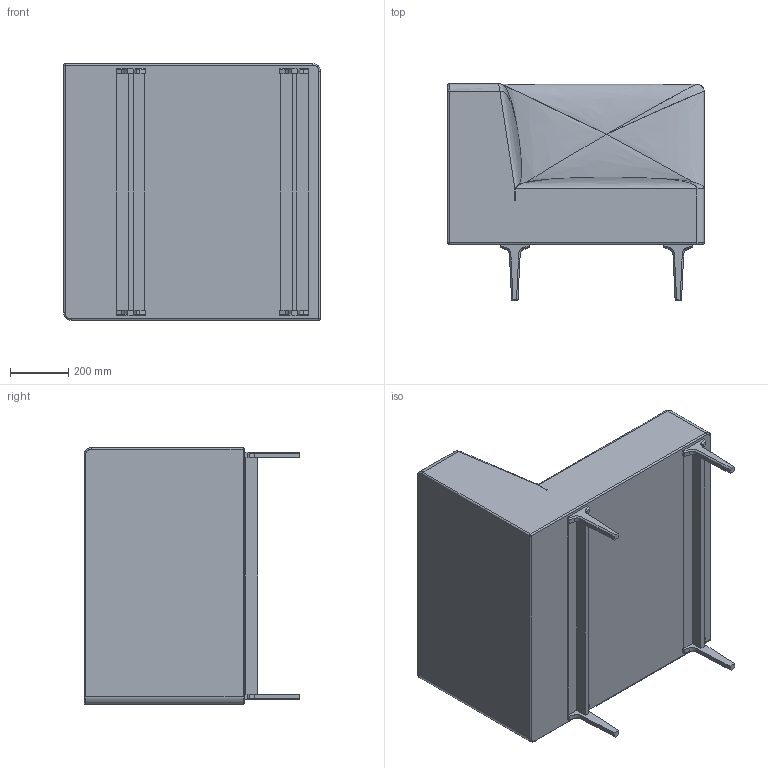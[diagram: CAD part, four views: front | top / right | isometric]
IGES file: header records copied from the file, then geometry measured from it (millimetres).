
Start section: SolidWorks IGES file using analytic representation for surfaces
Global section: file name: D:\Box Sync\Matthew Hilton\403 Planalto Sofa\sales related\SW\403S Planalto Sofa.IGS; native system: SolidWorks 2016; preprocessor: SolidWorks 2016; author: kumag; date: 180221.155759; units: millimetre
Bounding box: 880 x 740.2 x 880 mm (x, y, z)
Surface area: 4057536.5 mm2 (no closed solid volume)
Topology: 0 solids, 0 shells, 132 faces, 956 edges, 940 vertices
Faces by surface type: bspline 101, revolution 31
